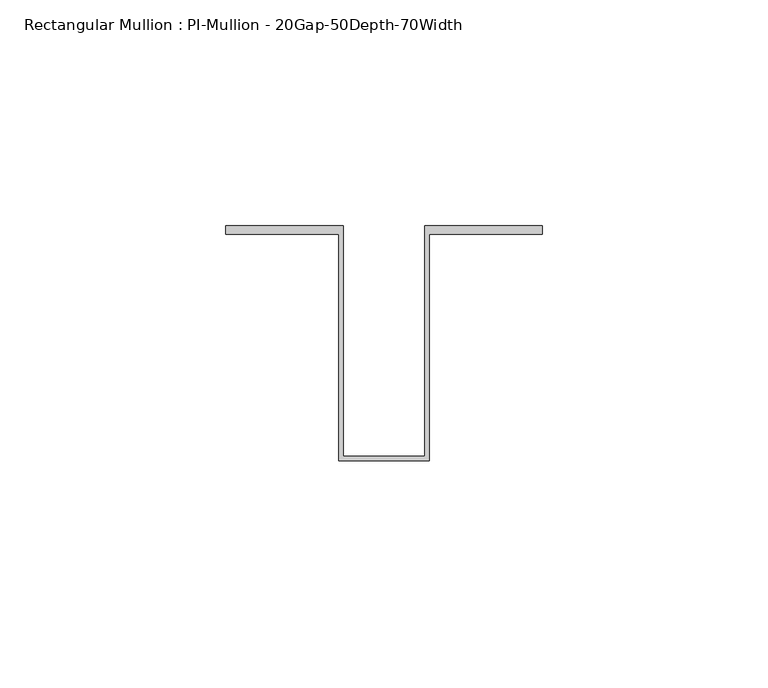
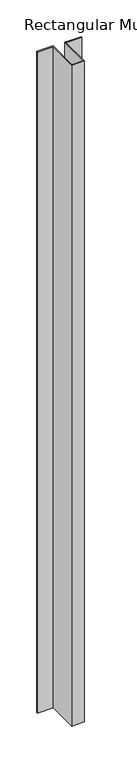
"""IFC4 building model written with IfcOpenShell, lengths in millimetres: member geometry, Rectangular Mullion : PI-Mullion - 20Gap-50Depth-70Width."""

from ifc_helpers import new_model, si_unit, frame, origin, place, context, project, spatial, polyline, outline, extrude, source, transform, mapped, element, save


def rectangular_mullion_pi_mullion_20gap_50depth_70width_047f249b(model_context):
    return source(origin(), model_context, "Body", "SweptSolid", [
        extrude(outline(polyline([(-10.0, 0.2), (-35.0, 0.2), (-35.0, 2.0), (-9.0, 2.0), (-9.0, -49.0), (9.0, -49.0), (9.0, 2.0), (35.0, 2.0), (35.0, 0.2), (10.0, 0.2), (10.0, -50.0), (-10.0, -50.0), (-10.0, 0.2)])), frame((0.0, 0.0, -1100.0), z_axis=(0.0, 0.0, 1.0), x_axis=(1.0, 0.0, 0.0)), (0.0, 0.0, 1.0), 1100.0),
    ])


if __name__ == "__main__":
    model = new_model("IFC4")
    model_context = context("Model", 3, world=origin())
    ifc_project = project(units=[si_unit("LENGTHUNIT", "METRE", prefix="MILLI")], contexts=[model_context])
    site = spatial("IfcSite", under=ifc_project)
    building = spatial("IfcBuilding", under=site)
    placement = place(None, origin())
    rectangular_mullion_pi_mullion_20gap_50depth_70width_shape = rectangular_mullion_pi_mullion_20gap_50depth_70width_047f249b(model_context)
    element("IfcMember", 1, ObjectType="Rectangular Mullion : PI-Mullion - 20Gap-50Depth-70Width", at=placement, inside=building, context=model_context, shape_type="MappedRepresentation", body=[
        mapped(rectangular_mullion_pi_mullion_20gap_50depth_70width_shape, transform((0.0, 0.0, 0.0), x_axis=(1.0, 0.0, 0.0), y_axis=(0.0, 1.0, 0.0), z_axis=(0.0, 0.0, 1.0))),
    ])
    save(model, "model.ifc")
